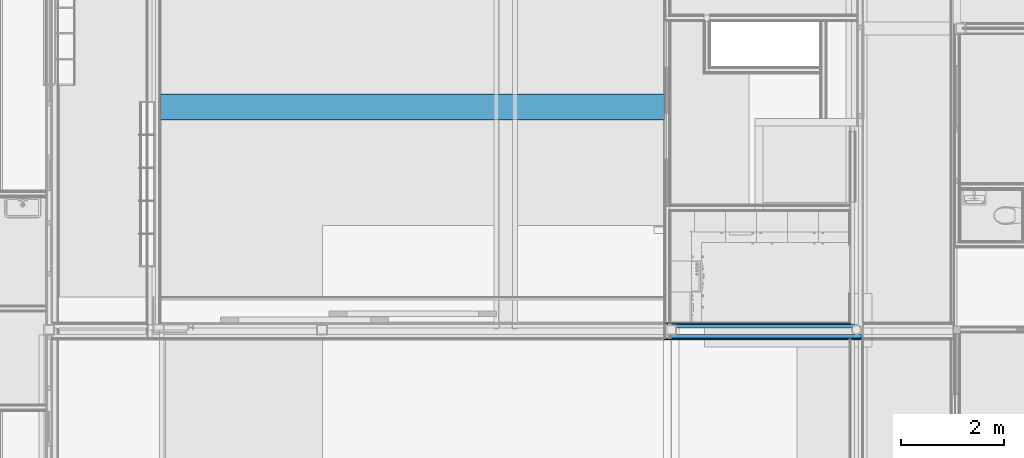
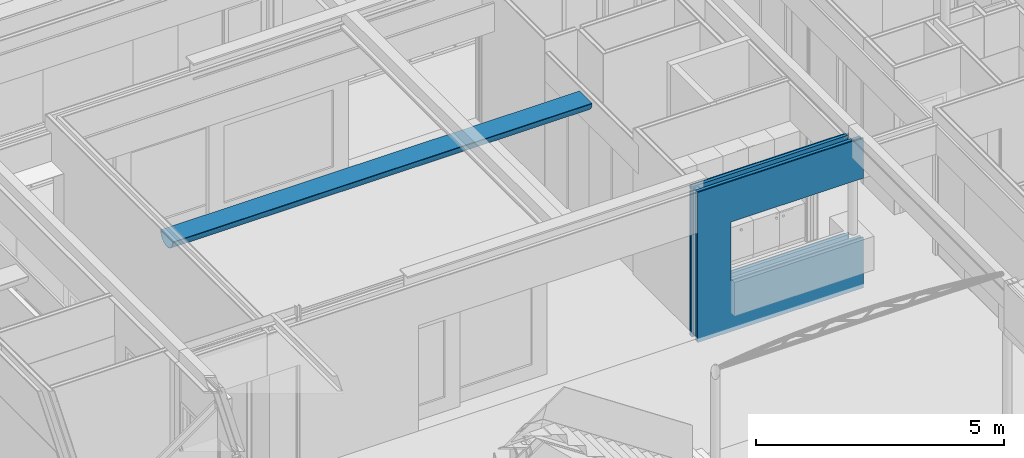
# One storey, part 68 of 165: 8 building element parts, 1 opening, 2 elements without a shape of their own.
"""IFC2X3 building model written with IfcOpenShell, lengths in millimetres."""

from ifc_helpers import new_model, entity, si_unit, converted_unit, derived_unit, money_unit, direction, frame, origin_with_axes, place, context, subcontext, project, spatial, faceted_brep, material, type_object, element, aggregate, save


model = new_model("IFC2X3")

# Units and contexts
model_context = context("Model", 3, precision=0.01, world=origin_with_axes(), true_north=direction((0.0, 1.0)))
body_context = subcontext(model_context, "Body", "Model", "MODEL_VIEW")
ifc_project = project(units=[si_unit("LENGTHUNIT", "METRE", prefix="MILLI"), si_unit("AREAUNIT", "SQUARE_METRE"), si_unit("VOLUMEUNIT", "CUBIC_METRE"), converted_unit("PLANEANGLEUNIT", "DEGREE", entity("IfcPlaneAngleMeasure", 0.0174532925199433), si_unit("PLANEANGLEUNIT", "RADIAN"), dimensions=[0, 0, 0, 0, 0, 0, 0]), money_unit("EUR"), converted_unit("TIMEUNIT", "Year", entity("IfcTimeMeasure", 31556926.0), si_unit("TIMEUNIT", "SECOND"), dimensions=[0, 0, 1, 0, 0, 0, 0]), si_unit("MASSUNIT", "GRAM", prefix="KILO"), si_unit("THERMODYNAMICTEMPERATUREUNIT", "DEGREE_CELSIUS"), si_unit("LUMINOUSINTENSITYUNIT", "LUMEN"), si_unit("ENERGYUNIT", "JOULE", prefix="MEGA"), derived_unit("THERMALCONDUCTANCEUNIT", [(si_unit("POWERUNIT", "WATT"), 1), (si_unit("LENGTHUNIT", "METRE"), -1), (si_unit("THERMODYNAMICTEMPERATUREUNIT", "KELVIN"), -1)]), derived_unit("SPECIFICHEATCAPACITYUNIT", [(si_unit("ENERGYUNIT", "JOULE"), 1), (si_unit("MASSUNIT", "GRAM", prefix="KILO"), -1), (si_unit("THERMODYNAMICTEMPERATUREUNIT", "KELVIN"), -1)]), derived_unit("MASSDENSITYUNIT", [(si_unit("MASSUNIT", "GRAM", prefix="KILO"), 1), (si_unit("VOLUMEUNIT", "CUBIC_METRE"), -1)])], contexts=[model_context])

# Site, building, storey
site_placement = place(None, origin_with_axes())
site = spatial("IfcSite", under=ifc_project, at=site_placement, Name="Site", CompositionType="ELEMENT")
building_placement = place(site_placement, origin_with_axes())
building = spatial("IfcBuilding", under=site, at=building_placement, Name="Naam gebouw", CompositionType="ELEMENT")
storey_placement = place(building_placement, origin_with_axes())
storey = spatial("IfcBuildingStorey", under=building, at=storey_placement, Name="Begane grond", CompositionType="ELEMENT", Elevation=0.0)

# Proxy, opening, building element parts
building_element_proxy_type = type_object("IfcBuildingElementProxyType", Name="22 Metal stud 325 325", PredefinedType="NOTDEFINED")
proxy_placement = place(storey_placement, frame((24499.99903999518, 10619.9988167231, -100.0), z_axis=(0.0, 0.0, 1.0), x_axis=(-1.0, 0.0, 0.0)))
proxy = element("IfcBuildingElementProxy", 1, at=proxy_placement, inside=storey, type_object=building_element_proxy_type, Name="_Wand-x")
opening_placement = place(proxy_placement, frame((1407.498619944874, 0.0, 1250.0), z_axis=(0.0, 0.0, 1.0), x_axis=(1.0, 0.0, 0.0)))
element("IfcOpeningElement", 2, at=opening_placement, cuts=proxy, Name="_-", context=body_context, shape_type="Brep", body=[
    faceted_brep([(-1271.667850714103, -325.9999999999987, 0.0), (1542.498682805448, -326.0000000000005, 0.0), (1542.498682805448, -326.0000000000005, 1450.0), (-1271.667850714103, -325.9999999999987, 1450.0), (-1542.498682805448, 1.000000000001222, 0.0), (1542.498682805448, 0.9999999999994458, 0.0), (-1542.498682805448, 7.566550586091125e-05, 0.0), (1542.498682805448, 0.9999999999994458, 1450.0), (-1542.498682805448, 1.000000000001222, 1450.0), (-1542.498682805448, 7.566550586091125e-05, 1450.0)], [[[0, 1, 2, 3]], [[4, 5, 1, 0, 6]], [[5, 7, 2, 1]], [[7, 8, 9, 3, 2]], [[0, 3, 9, 6]], [[5, 4, 8, 7]], [[8, 4, 6, 9]]]),
])
ifc_material_1 = material(Name="Gipsplaat")
building_element_part_1_placement = place(proxy_placement, origin_with_axes())
building_element_part_1 = element("IfcBuildingElementPart", 3, at=building_element_part_1_placement, material=ifc_material_1, Name="Gipsplaat", context=body_context, shape_type="Brep", body=[
    faceted_brep([(2949.997302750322, 5.960469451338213e-06, 1250.0), (2949.997302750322, 5.960469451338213e-06, 2700.0), (-135.0000049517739, 5.960471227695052e-06, 2700.0), (-135.0000000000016, 0.0, 3680.0), (115.9999999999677, 0.0, 3680.0), (115.9999999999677, 0.0, 3695.0), (100.9999999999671, 0.0, 3695.0), (100.9999999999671, 0.0, 3700.0), (3724.99699416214, 0.0, 3700.0), (3724.99699416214, 0.0, 0.0), (-135.0000000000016, 0.0, 0.0), (-135.0000049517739, 5.960469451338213e-06, 1250.0), (2949.997302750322, -12.50000000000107, 1250.0), (2949.997302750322, -12.50000000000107, 2700.0), (-124.6158066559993, -12.49949198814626, 2700.0), (-135.0000000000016, -12.49999999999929, 2700.0), (-135.0000000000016, -12.49999999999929, 3680.0), (115.9999999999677, -12.50000000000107, 3680.0), (115.9999999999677, -12.50000000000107, 3695.0), (100.9999999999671, -12.50000000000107, 3695.0), (100.9999999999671, -12.49999999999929, 3700.0), (3724.99699416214, -12.49999999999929, 3700.0), (3724.99699416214, -12.50000000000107, 0.0), (-135.0000000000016, -12.49999999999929, 0.0), (-135.0000000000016, -12.49999999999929, 1250.0), (-124.6158066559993, -12.49949198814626, 1250.0)], [[[0, 1, 2, 3, 4, 5, 6, 7, 8, 9, 10, 11]], [[12, 13, 1, 0]], [[14, 2, 1, 13]], [[2, 15, 16, 3]], [[4, 3, 16, 17]], [[4, 17, 18, 5]], [[5, 18, 19, 6]], [[6, 19, 20, 7]], [[8, 7, 20, 21]], [[9, 8, 21, 22]], [[23, 10, 9, 22]], [[24, 11, 10, 23]], [[0, 11, 25, 12]], [[12, 25, 24, 23, 22, 21, 20, 19, 18, 17, 16, 15, 14, 13]], [[2, 14, 15]], [[25, 11, 24]]]),
    faceted_brep([(94.99999999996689, -12.49999999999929, 3700.0), (94.99999999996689, 0.0, 3700.0), (-95.00000000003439, 0.0, 3700.0), (-95.00000000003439, -12.49999999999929, 3700.0), (94.99999999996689, -12.50000000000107, 3695.0), (94.99999999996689, 0.0, 3695.0), (-95.00000000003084, 0.0, 3695.0), (-95.00000000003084, -12.50000000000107, 3695.0)], [[[0, 1, 2, 3]], [[1, 0, 4, 5]], [[6, 2, 1, 5]], [[7, 3, 2, 6]], [[4, 0, 3, 7]], [[4, 7, 6, 5]]]),
    faceted_brep([(-135.0000000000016, 0.0, 3695.0), (-135.0000000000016, -12.49999999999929, 3695.0), (-135.0000000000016, -12.49999999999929, 3700.0), (-135.0000000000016, 0.0, 3700.0), (-101.0000000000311, -12.50000000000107, 3695.0), (-101.0000000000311, 0.0, 3695.0), (-101.0000000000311, -12.49999999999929, 3700.0), (-101.0000000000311, 0.0, 3700.0)], [[[0, 1, 2, 3]], [[4, 1, 0, 5]], [[4, 6, 2, 1]], [[6, 7, 3, 2]], [[5, 0, 3, 7]], [[7, 6, 4, 5]]]),
])
ifc_material_2 = material(Name="ALG - LICHTE SCHEIDINGSWAND")
building_element_part_2_placement = place(proxy_placement, origin_with_axes())
building_element_part_2 = element("IfcBuildingElementPart", 4, at=building_element_part_2_placement, material=ifc_material_2, Name="ALG - LICHTE SCHEIDINGSWAND", context=body_context, shape_type="Brep", body=[
    faceted_brep([(81.47540465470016, -242.3623569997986, 2700.0), (73.7520560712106, -251.2756230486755, 2700.0), (63.42326208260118, -263.195640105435, 2700.0), (63.42326208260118, -263.195640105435, 3680.000029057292), (81.47540465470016, -242.3623569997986, 3680.000029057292), (114.2307354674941, -299.9999593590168, 2700.0), (89.40452741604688, -224.9999999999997, 2700.0), (2949.997302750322, -224.9999999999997, 2700.0), (2949.997302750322, -300.0000000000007, 2700.0), (35.00000000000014, -299.9999999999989, 2700.0), (35.00000000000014, -279.6356835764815, 2700.0), (40.23294400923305, -278.0991525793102, 2700.0), (40.23294400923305, -278.0991525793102, 3680.000029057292), (35.00000000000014, -279.6356835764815, 3680.000029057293), (35.00000000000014, -299.9999999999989, 3680.000029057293), (199.9999999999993, -300.0000000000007, 3680.000029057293), (199.9999999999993, -224.9999999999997, 3680.000029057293), (89.40452741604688, -224.9999999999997, 3680.000029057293), (199.9999999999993, -224.9999999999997, 3695.000029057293), (100.9999999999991, -224.9999999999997, 3695.000029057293), (100.9999999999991, -224.9999999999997, 3700.0), (3724.99699416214, -224.9999999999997, 3700.0), (3724.99699416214, -224.9999999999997, 3604.999999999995), (3490.00110590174, -224.9999999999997, 3604.999999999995), (3490.00110590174, -224.9999999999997, 29.9999999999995), (3690.001105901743, -224.9999999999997, 29.9999999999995), (3690.001105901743, -224.9999999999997, 3564.999999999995), (3724.99699416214, -224.9999999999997, 3564.999999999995), (3724.99699416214, -224.9999999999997, 0.0), (89.40452741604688, -224.9999999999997, 0.0), (89.40452741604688, -224.9999999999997, 1250.0), (2949.997302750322, -224.9999999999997, 1250.0), (2949.997302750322, -300.0000000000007, 1250.0), (114.2307354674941, -299.9999593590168, 1250.0), (35.00000000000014, -300.0000000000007, 1250.0), (35.00000000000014, -300.0000000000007, 0.0), (3724.99699416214, -300.0000000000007, 0.0), (3724.99699416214, -300.0000000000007, 3564.999999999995), (3490.00110590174, -300.0000000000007, 3564.999999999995), (3490.00110590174, -300.0000000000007, 3604.999999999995), (3724.99699416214, -300.0000000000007, 3604.999999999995), (3724.99699416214, -300.0000000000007, 3700.0), (100.9999999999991, -299.9999999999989, 3700.0), (100.9999999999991, -300.0000000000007, 3695.000029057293), (199.9999999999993, -300.0000000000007, 3695.000029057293), (3490.00110590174, -290.0012938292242, 3564.999999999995), (3490.00110590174, -290.0012938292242, 29.9999999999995), (3690.001105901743, -290.0012938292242, 29.9999999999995), (3690.001105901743, -290.0012938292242, 3564.999999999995), (63.42326208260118, -263.195640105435, 0.0), (81.47540465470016, -242.3623569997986, 0.0), (35.00000000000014, -279.6356835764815, 0.0), (40.23294400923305, -278.0991525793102, 0.0), (81.47540465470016, -242.3623569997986, 1250.0), (73.7520560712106, -251.2756230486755, 1250.0), (63.42326208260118, -263.195640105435, 1250.0), (40.23294400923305, -278.0991525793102, 1250.0), (35.00000000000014, -279.6356835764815, 1250.0)], [[[0, 1, 2, 3, 4]], [[5, 1, 0, 6, 7, 8]], [[1, 5, 9, 10, 11, 2]], [[2, 11, 12, 3]], [[4, 3, 12, 13, 14, 15, 16, 17]], [[6, 0, 4, 17]], [[7, 6, 17, 16, 18, 19, 20, 21, 22, 23, 24, 25, 26, 27, 28, 29, 30, 31]], [[32, 8, 7, 31]], [[32, 33, 34, 35, 36, 37, 38, 39, 40, 41, 42, 43, 44, 15, 14, 9, 5, 8]], [[10, 9, 14, 13]], [[11, 10, 13, 12]], [[18, 16, 15, 44]], [[19, 18, 44, 43]], [[20, 19, 43, 42]], [[41, 21, 20, 42]], [[21, 41, 40, 22]], [[23, 22, 40, 39]], [[38, 45, 46, 24, 23, 39]], [[25, 24, 46, 47]], [[47, 48, 26, 25]], [[27, 26, 48, 45, 38, 37]], [[36, 28, 27, 37]], [[49, 50, 29, 28, 36, 35, 51, 52]], [[53, 30, 29, 50]], [[53, 54, 33, 32, 31, 30]], [[33, 54, 55, 56, 57, 34]], [[34, 57, 51, 35]], [[46, 45, 48, 47]], [[54, 53, 50, 49, 55]], [[57, 56, 52, 51]], [[56, 55, 49, 52]]]),
    faceted_brep([(63.42326208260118, -263.195640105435, 3699.999999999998), (40.23294400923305, -278.0991525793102, 3699.999999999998), (35.00000000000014, -279.6356835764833, 3699.999999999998), (35.00000000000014, -299.9999999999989, 3700.0), (94.99999999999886, -299.9999999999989, 3700.0), (94.99999999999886, -224.9999999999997, 3700.0), (89.40452741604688, -224.9999999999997, 3699.999999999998), (81.47540465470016, -242.3623569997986, 3699.999999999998), (63.42326208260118, -263.195640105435, 3695.000029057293), (40.23294400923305, -278.0991525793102, 3695.000029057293), (35.00000000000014, -279.6356835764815, 3695.000029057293), (35.00000000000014, -299.9999999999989, 3695.000029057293), (94.99999999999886, -300.0000000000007, 3695.000029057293), (94.99999999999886, -224.9999999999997, 3695.000029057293), (89.40452741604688, -224.9999999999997, 3695.000029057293), (81.47540465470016, -242.3623569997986, 3695.000029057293)], [[[0, 1, 2, 3, 4, 5, 6, 7]], [[1, 0, 8, 9]], [[10, 2, 1, 9]], [[2, 10, 11, 3]], [[11, 12, 4, 3]], [[13, 5, 4, 12]], [[14, 6, 5, 13]], [[7, 6, 14, 15]], [[0, 7, 15, 8]], [[15, 14, 13, 12, 11, 10, 9, 8]]]),
])
building_element_part_3_placement = place(proxy_placement, origin_with_axes())
building_element_part_3 = element("IfcBuildingElementPart", 5, at=building_element_part_3_placement, material=ifc_material_1, Name="Gipsplaat", context=body_context, shape_type="Brep", body=[
    faceted_brep([(-122.4999999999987, -12.49999999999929, 2700.0), (-122.4993934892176, -15.04702635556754, 2700.0), (-122.4999999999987, -25.00000000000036, 2700.0), (-122.4999999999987, -25.00000000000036, 3680.0), (-122.4999999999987, -12.49999999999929, 3680.0), (-114.2311743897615, -24.99951230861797, 2700.0), (2949.997302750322, -12.49999999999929, 2700.0), (2949.997302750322, -25.00000000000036, 2700.0), (2949.997302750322, -25.00000000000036, 1250.0), (-114.2311743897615, -24.99951230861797, 1250.0), (-122.4999999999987, -25.00000000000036, 1250.0), (-122.4999999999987, -25.00000000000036, 0.0), (3724.99699416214, -25.00000000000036, 0.0), (3724.99699416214, -25.00000000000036, 3700.0), (100.9999999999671, -25.00000000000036, 3700.0), (100.9999999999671, -25.00000000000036, 3695.0), (115.9999999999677, -25.00000000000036, 3695.0), (115.9999999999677, -25.00000000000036, 3680.0), (115.9999999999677, -12.49999999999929, 3680.0), (115.9999999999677, -12.49999999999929, 3695.0), (100.9999999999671, -12.49999999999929, 3695.0), (100.9999999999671, -12.49999999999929, 3700.0), (3724.99699416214, -12.49999999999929, 3700.0), (3724.99699416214, -12.50000000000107, 0.0), (-122.4999999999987, -12.49999999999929, 0.0), (-122.4999999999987, -12.49999999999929, 1250.0), (2949.997302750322, -12.49999999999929, 1250.0), (-122.4993934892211, -15.04702635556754, 1250.0)], [[[0, 1, 2, 3, 4]], [[5, 1, 0, 6, 7]], [[1, 5, 2]], [[8, 9, 10, 11, 12, 13, 14, 15, 16, 17, 3, 2, 5, 7]], [[18, 4, 3, 17]], [[6, 0, 4, 18, 19, 20, 21, 22, 23, 24, 25, 26]], [[8, 7, 6, 26]], [[25, 27, 9, 8, 26]], [[9, 27, 10]], [[27, 25, 24, 11, 10]], [[11, 24, 23, 12]], [[23, 22, 13, 12]], [[22, 21, 14, 13]], [[20, 15, 14, 21]], [[19, 16, 15, 20]], [[18, 17, 16, 19]]]),
    faceted_brep([(94.99999999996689, -25.00000000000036, 3700.0), (94.99999999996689, -12.49999999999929, 3700.0), (-95.00000000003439, -12.49999999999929, 3700.0), (-95.00000000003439, -25.00000000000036, 3700.0), (94.99999999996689, -25.00000000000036, 3695.0), (94.99999999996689, -12.49999999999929, 3695.0), (-95.00000000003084, -12.49999999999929, 3695.0), (-95.00000000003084, -25.00000000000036, 3695.0)], [[[0, 1, 2, 3]], [[1, 0, 4, 5]], [[6, 2, 1, 5]], [[7, 3, 2, 6]], [[4, 0, 3, 7]], [[4, 7, 6, 5]]]),
    faceted_brep([(-122.4999999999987, -12.49999999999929, 3695.0), (-122.4999999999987, -25.00000000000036, 3695.0), (-122.4999999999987, -25.00000000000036, 3700.0), (-122.4999999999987, -12.49999999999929, 3700.0), (-101.0000000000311, -25.00000000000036, 3695.0), (-101.0000000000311, -12.49999999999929, 3695.0), (-101.0000000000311, -25.00000000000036, 3700.0), (-101.0000000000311, -12.49999999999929, 3700.0)], [[[0, 1, 2, 3]], [[4, 1, 0, 5]], [[4, 6, 2, 1]], [[6, 7, 3, 2]], [[5, 0, 3, 7]], [[7, 6, 4, 5]]]),
])
building_element_part_4_placement = place(proxy_placement, origin_with_axes())
building_element_part_4 = element("IfcBuildingElementPart", 6, at=building_element_part_4_placement, material=ifc_material_1, Name="Gipsplaat", context=body_context, shape_type="Brep", body=[
    faceted_brep([(2949.997302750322, -312.5, 1250.0), (2949.997302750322, -312.5, 2700.0), (124.6153677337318, -312.4999796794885, 2700.0), (122.4999999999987, -312.5, 2700.0), (122.4999999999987, -312.5, 3680.000029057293), (199.9999999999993, -312.5, 3680.000029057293), (199.9999999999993, -312.5, 3695.000029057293), (122.4999999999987, -312.5, 3695.000029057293), (122.4999999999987, -312.5, 3700.0), (3724.99699416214, -312.5, 3700.0), (3724.99699416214, -312.5, 3604.999999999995), (3490.00110590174, -312.5, 3604.999999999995), (3490.00110590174, -312.5, 3564.999999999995), (3724.99699416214, -312.5, 3564.999999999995), (3724.99699416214, -312.5, 0.0), (122.4999999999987, -312.5, 0.0), (122.4999999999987, -312.5, 1250.0), (124.6153677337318, -312.4999796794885, 1250.0), (2949.997302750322, -325.0000000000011, 1250.0), (2949.997302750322, -325.0000000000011, 2700.0), (135.0000000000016, -324.9999999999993, 2700.0), (122.4999999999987, -324.9999999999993, 2700.0), (122.4999999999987, -324.9999999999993, 3680.000029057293), (199.9999999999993, -325.0000000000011, 3680.000029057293), (199.9999999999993, -325.0000000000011, 3695.000029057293), (122.4999999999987, -324.9999999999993, 3695.000029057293), (122.4999999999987, -324.9999999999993, 3700.0), (3724.99699416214, -324.9999999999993, 3700.0), (3724.99699416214, -324.9999999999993, 3604.999999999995), (3490.00110590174, -325.0000000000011, 3604.999999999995), (3490.00110590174, -325.0000000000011, 3564.999999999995), (3724.99699416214, -324.9999999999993, 3564.999999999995), (3724.99699416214, -325.0000000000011, 0.0), (122.4999999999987, -324.9999999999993, 0.0), (122.4999999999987, -324.9999999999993, 1250.0), (135.0000000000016, -324.9999999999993, 1250.0)], [[[0, 1, 2, 3, 4, 5, 6, 7, 8, 9, 10, 11, 12, 13, 14, 15, 16, 17]], [[18, 19, 1, 0]], [[20, 2, 1, 19]], [[2, 20, 21, 3]], [[3, 21, 22, 4]], [[5, 4, 22, 23]], [[5, 23, 24, 6]], [[6, 24, 25, 7]], [[8, 7, 25, 26]], [[8, 26, 27, 9]], [[27, 28, 10, 9]], [[10, 28, 29, 11]], [[11, 29, 30, 12]], [[12, 30, 31, 13]], [[14, 13, 31, 32]], [[33, 15, 14, 32]], [[34, 16, 15, 33]], [[35, 17, 16, 34]], [[0, 17, 35, 18]], [[18, 35, 34, 33, 32, 31, 30, 29, 28, 27, 26, 25, 24, 23, 22, 21, 20, 19]]]),
])
building_element_part_5_placement = place(proxy_placement, origin_with_axes())
building_element_part_5 = element("IfcBuildingElementPart", 7, at=building_element_part_5_placement, material=ifc_material_1, Name="Gipsplaat", context=body_context, shape_type="Brep", body=[
    faceted_brep([(2949.997302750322, -300.0000000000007, 1250.0), (2949.997302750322, -300.0000000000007, 2700.0), (114.2307354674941, -299.9999593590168, 2700.0), (109.9999999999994, -299.9999999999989, 2700.0), (109.9999999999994, -299.9999999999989, 3680.000029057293), (199.9999999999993, -300.0000000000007, 3680.000029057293), (199.9999999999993, -300.0000000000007, 3695.000029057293), (109.9999999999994, -299.9999999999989, 3695.000029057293), (109.9999999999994, -299.9999999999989, 3700.0), (3724.99699416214, -300.0000000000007, 3700.0), (3724.99699416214, -300.0000000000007, 3604.999999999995), (3490.00110590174, -300.0000000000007, 3604.999999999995), (3490.00110590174, -300.0000000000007, 3564.999999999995), (3724.99699416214, -300.0000000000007, 3564.999999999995), (3724.99699416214, -300.0000000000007, 0.0), (109.9999999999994, -300.0000000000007, 0.0), (109.9999999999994, -300.0000000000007, 1250.0), (114.2307354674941, -299.9999593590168, 1250.0), (2949.997302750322, -312.5, 1250.0), (2949.997302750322, -312.5, 2700.0), (124.6153677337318, -312.4999796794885, 2700.0), (109.9999999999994, -312.5, 2700.0), (109.9999999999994, -312.5, 3680.000029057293), (199.9999999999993, -312.5, 3680.000029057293), (199.9999999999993, -312.5, 3695.000029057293), (109.9999999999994, -312.5, 3695.000029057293), (109.9999999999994, -312.5, 3700.0), (3724.99699416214, -312.5, 3700.0), (3724.99699416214, -312.5, 3604.999999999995), (3490.00110590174, -312.5, 3604.999999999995), (3490.00110590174, -312.5, 3564.999999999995), (3724.99699416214, -312.5, 3564.999999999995), (3724.99699416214, -312.5, 0.0), (109.9999999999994, -312.5, 0.0), (109.9999999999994, -312.5, 1250.0), (124.6153677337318, -312.4999796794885, 1250.0)], [[[0, 1, 2, 3, 4, 5, 6, 7, 8, 9, 10, 11, 12, 13, 14, 15, 16, 17]], [[18, 19, 1, 0]], [[20, 2, 1, 19]], [[2, 20, 21, 3]], [[3, 21, 22, 4]], [[5, 4, 22, 23]], [[5, 23, 24, 6]], [[6, 24, 25, 7]], [[8, 7, 25, 26]], [[8, 26, 27, 9]], [[27, 28, 10, 9]], [[10, 28, 29, 11]], [[11, 29, 30, 12]], [[12, 30, 31, 13]], [[14, 13, 31, 32]], [[33, 15, 14, 32]], [[34, 16, 15, 33]], [[35, 17, 16, 34]], [[0, 17, 35, 18]], [[18, 35, 34, 33, 32, 31, 30, 29, 28, 27, 26, 25, 24, 23, 22, 21, 20, 19]]]),
])
building_element_part_6_placement = place(proxy_placement, origin_with_axes())
building_element_part_6 = element("IfcBuildingElementPart", 8, at=building_element_part_6_placement, material=ifc_material_2, Name="ALG - LICHTE SCHEIDINGSWAND", context=body_context, shape_type="Brep", body=[
    faceted_brep([(-109.9999999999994, -25.00000000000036, 2700.0), (-109.9994229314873, -30.09328721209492, 2700.0), (-109.9999999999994, -99.99999999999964, 2700.0), (-109.9999999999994, -99.99999999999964, 3680.0), (-109.9999999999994, -25.00000000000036, 3680.0), (-51.92338079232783, -99.99963423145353, 2700.0), (2949.997302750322, -25.00000000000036, 2700.0), (2949.997302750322, -99.99999999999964, 2700.0), (33.75043945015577, -99.99999999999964, 2700.0), (13.78319208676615, -94.13708718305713, 2700.0), (-13.78319208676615, -94.13708718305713, 2700.0), (-33.75043945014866, -99.99999999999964, 2700.0), (-33.75043945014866, -99.99999999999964, 3680.0), (-13.78319208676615, -94.13708718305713, 3680.0), (13.78319208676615, -94.13708718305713, 3680.0), (33.75043945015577, -99.99999999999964, 3680.0), (115.9999999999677, -99.99999999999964, 3680.0), (115.9999999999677, -25.00000000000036, 3680.0), (115.9999999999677, -25.00000000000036, 3695.0), (100.9999999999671, -25.00000000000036, 3695.0), (100.9999999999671, -25.00000000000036, 3700.0), (3724.99699416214, -25.00000000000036, 3700.0), (3724.99699416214, -25.00000000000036, 0.0), (-109.9999999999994, -25.00000000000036, 0.0), (-109.9999999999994, -25.00000000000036, 1250.0), (2949.997302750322, -25.00000000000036, 1250.0), (2949.997302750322, -99.99999999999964, 1250.0), (33.75043945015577, -99.99999999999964, 1250.0), (33.75043945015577, -99.99999999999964, 0.0), (3724.99699416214, -99.99999999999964, 0.0), (3724.99699416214, -99.99999999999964, 3564.999999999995), (3690.001105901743, -99.99999999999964, 3564.999999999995), (3690.001105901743, -99.99999999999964, 29.9999999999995), (3680.001105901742, -100.0012938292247, 29.9999999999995), (3500.001105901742, -100.0012938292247, 29.9999999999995), (3490.00110590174, -99.99999999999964, 29.9999999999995), (3490.00110590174, -99.99999999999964, 3604.999999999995), (3724.99699416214, -99.99999999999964, 3604.999999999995), (3724.99699416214, -99.99999999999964, 3700.0), (100.9999999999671, -99.99999999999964, 3700.0), (100.9999999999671, -99.99999999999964, 3695.0), (115.9999999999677, -99.99999999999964, 3695.0), (3724.99699416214, -36.00129382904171, 3604.999999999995), (3724.99699416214, -36.00129382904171, 3564.999999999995), (13.78319208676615, -94.13708718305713, 0.0), (-13.78319208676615, -94.13708718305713, 0.0), (-33.75043945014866, -99.99999999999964, 0.0), (-109.9999999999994, -99.99999999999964, 0.0), (-109.9994229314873, -30.09328721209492, 1250.0), (-109.9999999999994, -99.99999999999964, 1250.0), (-51.92338079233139, -99.99963423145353, 1250.0), (-33.75043945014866, -99.99999999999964, 1250.0), (-13.78319208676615, -94.13708718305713, 1250.0), (13.78319208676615, -94.13708718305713, 1250.0), (3490.00110590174, -90.00129382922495, 3564.999999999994), (3690.001105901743, -90.00129382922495, 3564.999999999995), (3490.00110590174, -36.00129382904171, 3564.999999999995), (3690.001105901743, -90.00129382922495, 29.9999999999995), (3490.00110590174, -90.00129382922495, 29.9999999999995), (3490.00110590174, -36.00129382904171, 3604.999999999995)], [[[0, 1, 2, 3, 4]], [[5, 1, 0, 6, 7, 8, 9, 10, 11]], [[1, 5, 2]], [[5, 11, 12, 3, 2]], [[13, 14, 15, 16, 17, 4, 3, 12]], [[6, 0, 4, 17, 18, 19, 20, 21, 22, 23, 24, 25]], [[26, 7, 6, 25]], [[26, 27, 28, 29, 30, 31, 32, 33, 34, 35, 36, 37, 38, 39, 40, 41, 16, 15, 8, 7]], [[9, 8, 15, 14]], [[10, 9, 14, 13]], [[11, 10, 13, 12]], [[18, 17, 16, 41]], [[19, 18, 41, 40]], [[20, 19, 40, 39]], [[38, 21, 20, 39]], [[37, 42, 43, 30, 29, 22, 21, 38]], [[44, 45, 46, 47, 23, 22, 29, 28]], [[48, 24, 23, 47, 49]], [[24, 48, 50, 51, 52, 53, 27, 26, 25]], [[27, 53, 44, 28]], [[54, 55, 31, 30, 43, 56]], [[57, 32, 31, 55]], [[58, 35, 34, 33, 32, 57]], [[36, 35, 58, 54, 56, 59]], [[59, 42, 37, 36]], [[59, 56, 43, 42]], [[53, 52, 45, 44]], [[52, 51, 46, 45]], [[51, 50, 49, 47, 46]], [[50, 48, 49]], [[57, 55, 54, 58]]]),
    faceted_brep([(-33.75043945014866, -99.99999999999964, 3695.0), (-33.75043945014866, -99.99999999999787, 3699.999999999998), (-95.00000000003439, -99.99999999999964, 3700.0), (-95.00000000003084, -99.99999999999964, 3695.0), (-13.78319208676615, -94.13708718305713, 3699.999999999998), (-13.78319208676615, -94.13708718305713, 3695.0), (13.78319208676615, -94.13708718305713, 3699.999999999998), (33.75043945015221, -99.99999999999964, 3699.999999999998), (94.99999999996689, -99.99999999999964, 3700.0), (94.99999999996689, -25.00000000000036, 3700.0), (-95.00000000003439, -25.00000000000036, 3700.0), (-95.00000000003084, -25.00000000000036, 3695.0), (94.99999999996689, -25.00000000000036, 3695.0), (94.99999999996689, -99.99999999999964, 3695.0), (33.75043945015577, -99.99999999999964, 3695.0), (13.78319208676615, -94.13708718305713, 3695.0)], [[[0, 1, 2, 3]], [[4, 1, 0, 5]], [[6, 7, 8, 9, 10, 2, 1, 4]], [[11, 3, 2, 10]], [[5, 0, 3, 11, 12, 13, 14, 15]], [[6, 4, 5, 15]], [[7, 6, 15, 14]], [[7, 14, 13, 8]], [[12, 9, 8, 13]], [[12, 11, 10, 9]]]),
    faceted_brep([(-109.9999999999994, -25.00000000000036, 3695.0), (-109.9999999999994, -99.99999999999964, 3695.0), (-109.9999999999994, -99.99999999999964, 3700.0), (-109.9999999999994, -25.00000000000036, 3700.0), (-101.0000000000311, -99.99999999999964, 3695.0), (-101.0000000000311, -25.00000000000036, 3695.0), (-101.0000000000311, -99.99999999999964, 3700.0), (-101.0000000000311, -25.00000000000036, 3700.0)], [[[0, 1, 2, 3]], [[4, 1, 0, 5]], [[4, 6, 2, 1]], [[6, 7, 3, 2]], [[5, 0, 3, 7]], [[7, 6, 4, 5]]]),
])
aggregate(proxy, [building_element_part_1, building_element_part_2, building_element_part_3, building_element_part_4, building_element_part_5, building_element_part_6])

# Beam, building element parts
beam_type = type_object("IfcBeamType", Name="Luchtzakken 500mm 500 x 265", PredefinedType="BEAM")
beam_placement = place(storey_placement, frame((11010.00000000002, 15129.99960482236, 3200.0), z_axis=(0.0, 0.0, 1.0), x_axis=(0.0, -1.0, 0.0)))
beam = element("IfcBeam", 9, at=beam_placement, inside=storey, type_object=beam_type, Name="_Regenwaterafvoer-x", ObjectType="BEAM")
ifc_material_3 = material(Name="ALG - ALGEMEEN")
building_element_part_7_placement = place(beam_placement, origin_with_axes())
building_element_part_7 = element("IfcBuildingElementPart", 10, at=building_element_part_7_placement, material=ifc_material_3, Name="ALG - ALGEMEEN", context=body_context, shape_type="Brep", body=[
    faceted_brep([(-250.0, 9765.001674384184, 0.0), (-246.2019382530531, 9765.001674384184, -43.41204441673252), (-246.2019382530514, 0.0, -43.41204441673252), (-250.0, 0.0, 0.0), (-240.0000000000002, 9765.001674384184, 0.0), (-236.3538607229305, 9765.001674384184, -41.67556264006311), (-225.5262289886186, 9765.001674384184, -82.08483439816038), (-207.8460969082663, 9765.001674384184, -120.0000000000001), (-183.8506663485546, 9765.001674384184, -154.2690263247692), (-154.2690263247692, 9765.001674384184, -183.8506663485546), (-120.000000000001, 9765.001674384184, -207.8460969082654), (-82.08483439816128, 9765.001674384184, -225.5262289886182), (-41.675562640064, 9765.001674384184, -236.3538607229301), (0.0, 9765.001674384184, -240.0000000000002), (41.67556264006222, 9765.001674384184, -236.3538607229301), (82.0848343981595, 9765.001674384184, -225.5262289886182), (119.9999999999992, 9765.001674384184, -207.8460969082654), (154.2690263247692, 9765.001674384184, -183.8506663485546), (183.8506663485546, 9765.001674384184, -154.2690263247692), (207.8460969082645, 9765.001674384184, -120.0000000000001), (225.5262289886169, 9765.001674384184, -82.08483439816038), (236.3538607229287, 9765.001674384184, -41.67556264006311), (240.0000000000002, 9765.001674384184, 0.0), (250.0, 9765.001674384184, 0.0), (246.2019382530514, 9765.001674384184, -43.41204441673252), (234.9231551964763, 9765.001674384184, -85.50503583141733), (216.5063509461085, 9765.001674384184, -125.0), (191.5111107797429, 9765.001674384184, -160.6969024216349), (160.696902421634, 9765.001674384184, -191.5111107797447), (125.0, 9765.001674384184, -216.5063509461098), (85.50503583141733, 9765.001674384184, -234.9231551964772), (43.41204441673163, 9765.001674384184, -246.2019382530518), (0.0, 9765.001674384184, -250.0), (-43.41204441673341, 9765.001674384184, -246.2019382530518), (-85.50503583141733, 9765.001674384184, -234.9231551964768), (-125.0, 9765.001674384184, -216.5063509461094), (-160.6969024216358, 9765.001674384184, -191.5111107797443), (-191.5111107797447, 9765.001674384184, -160.6969024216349), (-216.5063509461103, 9765.001674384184, -125.0), (-234.9231551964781, 9765.001674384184, -85.50503583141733), (-234.9231551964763, 0.0, -85.50503583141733), (-216.5063509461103, 0.0, -125.0), (-191.5111107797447, 0.0, -160.6969024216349), (-160.696902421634, 0.0, -191.5111107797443), (-125.0, 0.0, -216.5063509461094), (-85.50503583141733, 0.0, -234.9231551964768), (-43.41204441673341, 0.0, -246.2019382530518), (0.0, 0.0, -250.0), (43.41204441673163, 0.0, -246.2019382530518), (85.50503583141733, 0.0, -234.9231551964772), (125.0, 0.0, -216.5063509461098), (160.696902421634, 0.0, -191.5111107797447), (191.5111107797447, 0.0, -160.6969024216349), (216.5063509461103, 0.0, -125.0), (234.9231551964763, 0.0, -85.50503583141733), (246.2019382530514, 0.0, -43.41204441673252), (250.0, 0.0, 0.0), (240.0000000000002, 0.0, 0.0), (236.3538607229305, 0.0, -41.67556264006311), (225.5262289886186, 0.0, -82.08483439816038), (207.8460969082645, 0.0, -120.0000000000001), (183.8506663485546, 0.0, -154.2690263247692), (154.2690263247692, 0.0, -183.8506663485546), (119.9999999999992, 0.0, -207.8460969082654), (82.08483439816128, 0.0, -225.5262289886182), (41.675562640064, 0.0, -236.3538607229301), (0.0, 0.0, -240.0000000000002), (-41.675562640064, 0.0, -236.3538607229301), (-82.08483439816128, 0.0, -225.5262289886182), (-119.9999999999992, 0.0, -207.8460969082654), (-154.2690263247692, 0.0, -183.8506663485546), (-183.8506663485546, 0.0, -154.2690263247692), (-207.8460969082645, 0.0, -120.0000000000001), (-225.5262289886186, 0.0, -82.08483439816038), (-236.3538607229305, 0.0, -41.67556264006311), (-240.0000000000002, 0.0, 0.0)], [[[0, 1, 2, 3]], [[0, 4, 5, 6, 7, 8, 9, 10, 11, 12, 13, 14, 15, 16, 17, 18, 19, 20, 21, 22, 23, 24, 25, 26, 27, 28, 29, 30, 31, 32, 33, 34, 35, 36, 37, 38, 39, 1]], [[1, 39, 40, 2]], [[3, 2, 40, 41, 42, 43, 44, 45, 46, 47, 48, 49, 50, 51, 52, 53, 54, 55, 56, 57, 58, 59, 60, 61, 62, 63, 64, 65, 66, 67, 68, 69, 70, 71, 72, 73, 74, 75]], [[4, 0, 3, 75]], [[5, 4, 75, 74]], [[6, 5, 74, 73]], [[7, 6, 73, 72]], [[8, 7, 72, 71]], [[9, 8, 71, 70]], [[10, 9, 70, 69]], [[11, 10, 69, 68]], [[12, 11, 68, 67]], [[13, 12, 67, 66]], [[14, 13, 66, 65]], [[15, 14, 65, 64]], [[16, 15, 64, 63]], [[17, 16, 63, 62]], [[18, 17, 62, 61]], [[19, 18, 61, 60]], [[20, 19, 60, 59]], [[21, 20, 59, 58]], [[22, 21, 58, 57]], [[23, 22, 57, 56]], [[24, 23, 56, 55]], [[25, 24, 55, 54]], [[26, 25, 54, 53]], [[27, 26, 53, 52]], [[28, 27, 52, 51]], [[29, 28, 51, 50]], [[30, 29, 50, 49]], [[31, 30, 49, 48]], [[32, 31, 48, 47]], [[33, 32, 47, 46]], [[34, 33, 46, 45]], [[35, 34, 45, 44]], [[36, 35, 44, 43]], [[37, 36, 43, 42]], [[38, 37, 42, 41]], [[39, 38, 41, 40]]]),
])
building_element_part_8_placement = place(beam_placement, origin_with_axes())
building_element_part_8 = element("IfcBuildingElementPart", 11, at=building_element_part_8_placement, material=ifc_material_3, Name="ALG - ALGEMEEN", context=body_context, shape_type="Brep", body=[
    faceted_brep([(250.0, 9765.001674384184, 0.0), (250.0, 9765.001674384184, 15.00000000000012), (250.0, 0.0, 15.00000000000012), (250.0, 0.0, 0.0), (240.0000000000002, 9765.001674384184, 0.0), (-240.0000000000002, 9765.001674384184, 0.0), (-250.0, 9765.001674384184, 0.0), (-250.0, 9765.001674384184, 15.00000000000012), (-250.0, 0.0, 15.00000000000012), (-250.0, 0.0, 0.0), (-240.0000000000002, 0.0, 0.0), (240.0000000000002, 0.0, 0.0)], [[[0, 1, 2, 3]], [[0, 4, 5, 6, 7, 1]], [[1, 7, 8, 2]], [[3, 2, 8, 9, 10, 11]], [[4, 0, 3, 11]], [[5, 4, 11, 10]], [[6, 5, 10, 9]], [[7, 6, 9, 8]]]),
])
aggregate(beam, [building_element_part_7, building_element_part_8])

save(model, "model.ifc")
